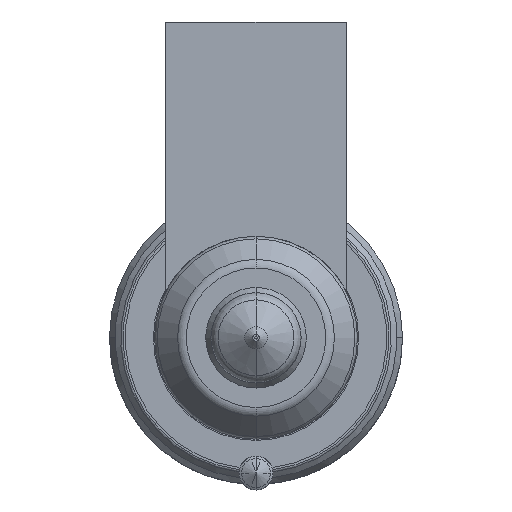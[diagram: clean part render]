
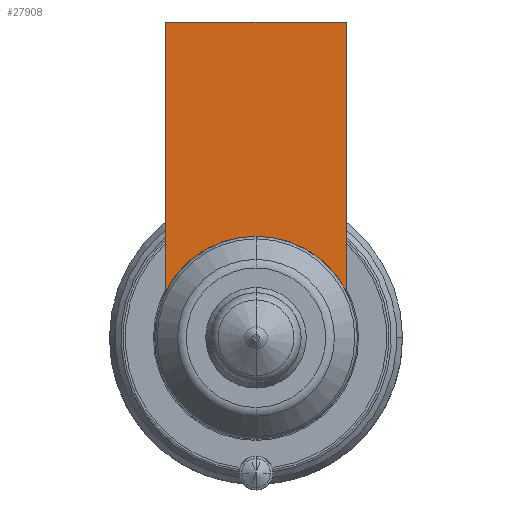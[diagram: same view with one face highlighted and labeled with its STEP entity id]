
A CAD part, front view. The second image highlights one B-rep face of the part: STEP entity #27908.
In plain terms, the highlighted planar face has unit normal (0, -1, 0).
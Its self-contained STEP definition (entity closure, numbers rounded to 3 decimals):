
#27089=DIRECTION('',(1.,0.,0.));
#27090=VECTOR('',#27089,16.);
#27091=CARTESIAN_POINT('',(-8.,-54.,28.));
#27092=LINE('',#27091,#27090);
#27097=CARTESIAN_POINT('',(0.,-54.,0.));
#27098=DIRECTION('',(0.,-1.,0.));
#27099=DIRECTION('',(0.889,0.,0.458));
#27100=AXIS2_PLACEMENT_3D('',#27097,#27098,#27099);
#27105=CARTESIAN_POINT('',(0.,-54.,0.));
#27106=DIRECTION('',(0.,-1.,0.));
#27107=DIRECTION('',(0.,0.,1.));
#27108=AXIS2_PLACEMENT_3D('',#27105,#27106,#27107);
#27134=DIRECTION('',(0.,0.,-1.));
#27135=VECTOR('',#27134,23.877);
#27136=CARTESIAN_POINT('',(-8.,-54.,28.));
#27137=LINE('',#27136,#27135);
#27760=DIRECTION('',(0.,0.,-1.));
#27761=VECTOR('',#27760,23.877);
#27762=CARTESIAN_POINT('',(8.,-54.,28.));
#27763=LINE('',#27762,#27761);
#27813=CARTESIAN_POINT('',(-8.,-54.,28.));
#27814=VERTEX_POINT('',#27813);
#27819=CARTESIAN_POINT('',(8.,-54.,28.));
#27820=VERTEX_POINT('',#27819);
#27823=CARTESIAN_POINT('',(-8.,-54.,4.123));
#27824=VERTEX_POINT('',#27823);
#27827=CARTESIAN_POINT('',(8.,-54.,4.123));
#27828=VERTEX_POINT('',#27827);
#27889=CARTESIAN_POINT('',(0.,-54.,9.));
#27890=VERTEX_POINT('',#27889);
#27891=CARTESIAN_POINT('',(0.,-54.,9.));
#27892=DIRECTION('',(0.,1.,0.));
#27893=DIRECTION('',(0.,0.,-1.));
#27894=AXIS2_PLACEMENT_3D('',#27891,#27892,#27893);
#27895=PLANE('',#27894);
#27897=ORIENTED_EDGE('',*,*,#27896,.F.);
#27899=ORIENTED_EDGE('',*,*,#27898,.T.);
#27901=ORIENTED_EDGE('',*,*,#27900,.T.);
#27903=ORIENTED_EDGE('',*,*,#27902,.T.);
#27905=ORIENTED_EDGE('',*,*,#27904,.T.);
#27906=EDGE_LOOP('',(#27897,#27899,#27901,#27903,#27905));
#27907=FACE_OUTER_BOUND('',#27906,.F.);
#27908=ADVANCED_FACE('',(#27907),#27895,.F.);
#27101=CIRCLE('',#27100,9.);
#27109=CIRCLE('',#27108,9.);
#27896=EDGE_CURVE('',#27814,#27824,#27137,.T.);
#27898=EDGE_CURVE('',#27814,#27820,#27092,.T.);
#27900=EDGE_CURVE('',#27820,#27828,#27763,.T.);
#27902=EDGE_CURVE('',#27828,#27890,#27101,.T.);
#27904=EDGE_CURVE('',#27890,#27824,#27109,.T.);
